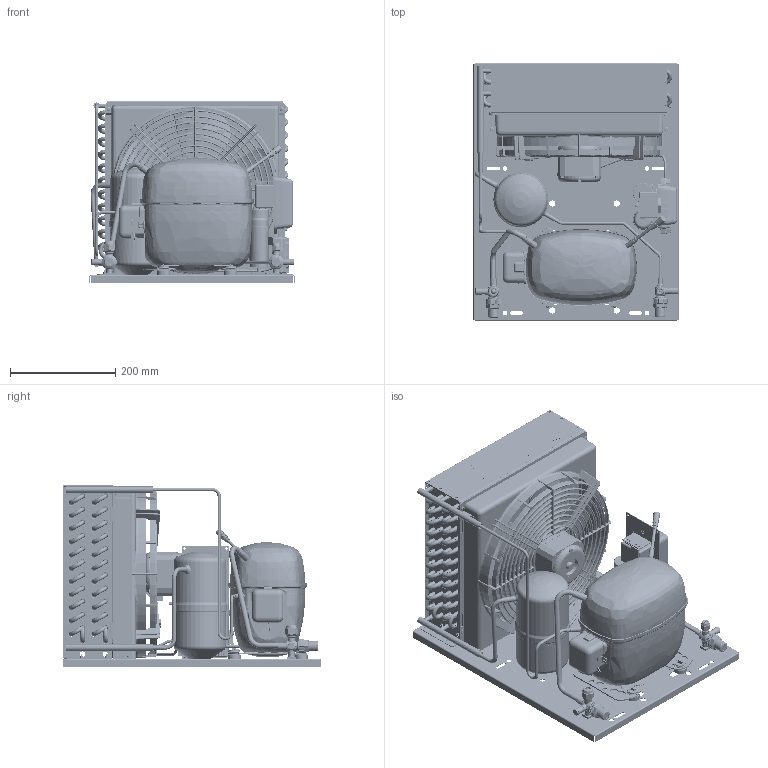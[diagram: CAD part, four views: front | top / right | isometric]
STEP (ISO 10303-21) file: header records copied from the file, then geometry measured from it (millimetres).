
FILE_DESCRIPTION(/* description */ ('Unknown'),/* implementation_level */ '2;1');
FILE_NAME(/* name */ '2298-0039',/* time_stamp */ '2022-01-10T14:21:25+01:00',/* author */ ('Unknown'),/* organization */ ('Unknown'),/* preprocessor_version */ 'ST-DEVELOPER v16.7',/* originating_system */ 'Solid Edge',/* authorisation */ 'Unknown');
FILE_SCHEMA (('AUTOMOTIVE_DESIGN {1 0 10303 214 3 1 1}'));
Products named in the file (50): 2298-0039; 92505124; 1340315f70; r50115706; r50115707; 2990210; r59700361; r50115701; r50095108; r50115604; cg300n; 6062_22M6; a300-19; a300-19_costruzione_oa_0; a300-19_costruzione_oa_1; a300-19_costruzione_oa_2; a300-19_costruzione_oa_3; a300-19_costruzione_oa_4; 84fm8x12xxxteff00; 6072_23m10; 84DM8X6.9XXESRF00; 100_200vs00; 84a4.2x9.5xtbcf01; 118-3661; 84RM10X21XXPIAF00; 118-7353; 7210-0003; 8392_A; 7560_2; 7010_22; 7030_3m10; 7560_3; 99510255; 8351_2; 99510255_Tubo; 84t4.8x8xxxtcca00_oa_5; 84t4.8x8xxxtcca00_oa_6; 84t4.8x8xxxtcca00_oa_7; 84t4.8x8xxxtcca00_oa_8; 680063704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
Assembly tree (118 placements, depth 3):
  2298-0039
    92505124
    1340315f70
      r50115706
      r50115707
      2990210  x24
      r59700361  x24
      r50115701
      r50095108
      r50115604  x2
    cg300n
    6062_22M6
    a300-19
      a300-19_costruzione_oa_0
      a300-19_costruzione_oa_1
      a300-19_costruzione_oa_2
      a300-19_costruzione_oa_3
      a300-19_costruzione_oa_4
    84fm8x12xxxteff00  x2
    6072_23m10
    84DM8X6.9XXESRF00
    100_200vs00
    84a4.2x9.5xtbcf01  x7
    118-3661  x4
    84RM10X21XXPIAF00  x4
    118-7353  x4
    7210-0003  x2
    8392_A  x2
    7560_2
    7010_22
    7030_3m10
    7560_3
    99510255
      8351_2
      99510255_Tubo
      8392_A
    84t4.8x8xxxtcca00_oa_5
    84t4.8x8xxxtcca00_oa_6
    84t4.8x8xxxtcca00_oa_7
    84t4.8x8xxxtcca00_oa_8
    680063704
    84dm4x3.6xxesrf00  x4
    99000082_secop
    99000082_SECOP_F-GAS
    680063705
    NET3T16PVN018
    6804-0502
    6805-1070
    55502402
    SC18CL-A-CSR
    2298-0005_CAVO VENTOLA
Bounding box: 390 x 490 x 345.32 mm (x, y, z)
Volume: 9588077.8 mm3; surface area: 3724102.9 mm2
Topology: 120 solids, 131 shells, 10252 faces, 26073 edges, 16633 vertices
Faces by surface type: plane 5318, cylinder 2076, bspline 1225, torus 824, cone 757, sphere 52
Full cylindrical faces by diameter (mm): 0.5 x1, 1 x3, 1.2 x4, 2 x20, 2.2 x4, 2.31 x6, 2.7 x4, 2.95 x7, 3 x7, 3.2 x6, 3.242 x4, 3.3 x2, 3.4 x4, 3.5 x15, 3.6 x6, 3.66 x4, 3.7 x4, 3.8 x7, 3.85 x2, 3.9 x2, 4 x40, 4.2 x17, 4.3 x1, 4.4 x4, 4.5 x13, 4.6 x6, 4.7 x4, 4.95 x1, 5 x15, 5.1 x2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
Entity records: 372619 total; most frequent: CARTESIAN_POINT 134754, ORIENTED_EDGE 44780, DIRECTION 33619, EDGE_CURVE 22413, VERTEX_POINT 14990, AXIS2_PLACEMENT_3D 12642, FACE_BOUND 12082, EDGE_LOOP 12080
